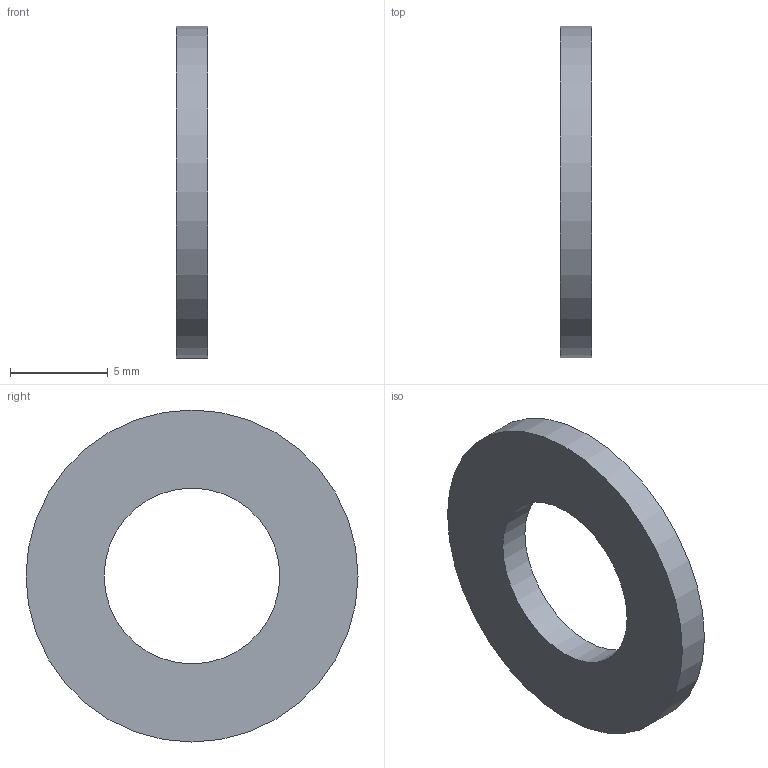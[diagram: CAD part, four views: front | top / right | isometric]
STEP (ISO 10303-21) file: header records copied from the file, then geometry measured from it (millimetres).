
FILE_DESCRIPTION(/* description */ ('평면 와셔'),/* implementation_level */ '2;1');
FILE_NAME(/* name */ '',/* time_stamp */ '2024-11-28T14:52:35+09:00',/* author */ ('jhkim'),/* organization */ (''),/* preprocessor_version */ 'ST-DEVELOPER v20',/* originating_system */ 'Autodesk Inventor 2025',/* authorisation */ '');
FILE_SCHEMA (('AUTOMOTIVE_DESIGN { 1 0 10303 214 3 1 1 }'));
Length unit declared in the file: millimetre
Products named in the file (1): 평와셔 M8
Bounding box: 1.6 x 17 x 17 mm (x, y, z)
Volume: 261.4 mm3; surface area: 457.4 mm2
Topology: 1 solids, 1 shells, 4 faces, 6 edges, 4 vertices
Faces by surface type: cylinder 2, plane 2
Full cylindrical faces by diameter (mm): 9 x1, 17 x1
Entity records: 141 total; most frequent: DIRECTION 20, CARTESIAN_POINT 15, ORIENTED_EDGE 12, AXIS2_PLACEMENT_3D 9, EDGE_LOOP 6, EDGE_CURVE 6, FACE_OUTER_BOUND 4, CIRCLE 4
